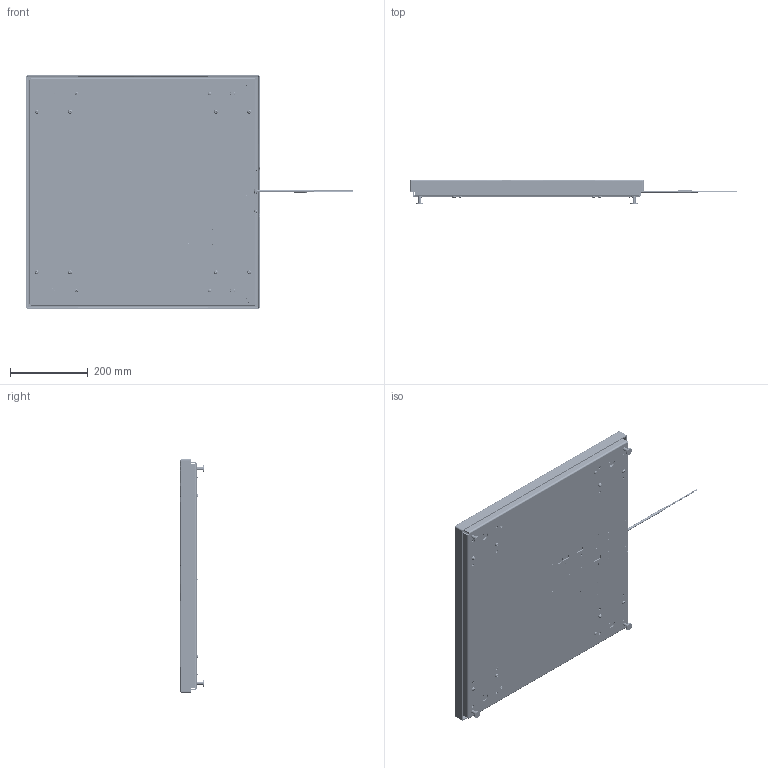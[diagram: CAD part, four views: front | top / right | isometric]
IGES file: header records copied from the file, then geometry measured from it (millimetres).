
Start section: SolidWorks IGES file using analytic representation for surfaces
Global section: file name: C:\0_Work\SolidWorks\~0_E-Scales\24x24\HI2424SBU-330.IGS; native system: SolidWorks 2017; preprocessor: SolidWorks 2017; author: vach01; date: 190813.153225; units: millimetre
Bounding box: 852.36 x 61.68 x 600 mm (x, y, z)
Surface area: 1873690.8 mm2 (no closed solid volume)
Topology: 0 solids, 0 shells, 9420 faces, 83554 edges, 83468 vertices
Faces by surface type: bspline 7056, revolution 2364
